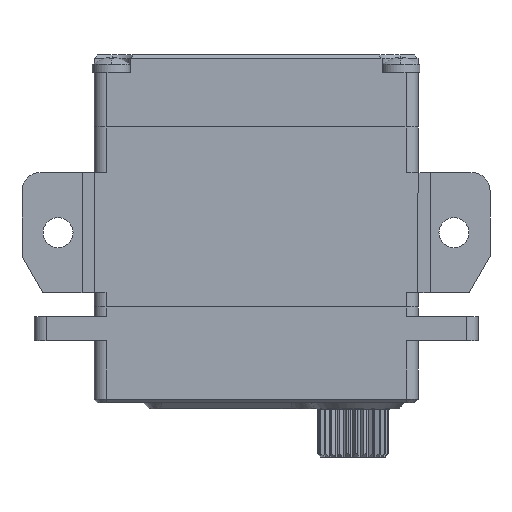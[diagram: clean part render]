
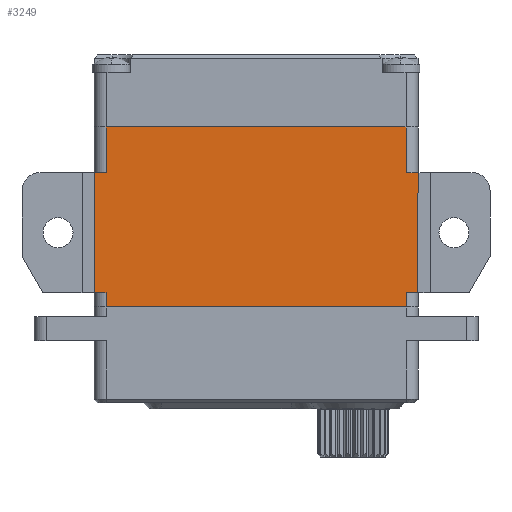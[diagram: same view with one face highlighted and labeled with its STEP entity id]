
A CAD part, front view. The second image highlights one B-rep face of the part: STEP entity #3249.
In plain terms, the highlighted planar face has unit normal (0, -1, 0).
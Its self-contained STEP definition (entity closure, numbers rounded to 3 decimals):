
#249 = CARTESIAN_POINT ( 'NONE',  ( -112.334, 9.936, -1.75 ) ) ;
#501 = DIRECTION ( 'NONE',  ( 0., 0., 1. ) ) ;
#1203 = DIRECTION ( 'NONE',  ( 1., 0., 0. ) ) ;
#1234 = EDGE_CURVE ( 'NONE', #12536, #1702, #3309, .T. ) ;
#1463 = CARTESIAN_POINT ( 'NONE',  ( -87.334, 9.936, -2.95 ) ) ;
#1546 = CARTESIAN_POINT ( 'NONE',  ( -86.334, 9.936, -1.75 ) ) ;
#1662 = CARTESIAN_POINT ( 'NONE',  ( -113.334, 9.936, 8.25 ) ) ;
#1702 = VERTEX_POINT ( 'NONE', #1662 ) ;
#1768 = LINE ( 'NONE', #19488, #3299 ) ;
#2164 = LINE ( 'NONE', #2928, #8123 ) ;
#2201 = CARTESIAN_POINT ( 'NONE',  ( -99.834, 9.936, 8.25 ) ) ;
#2228 = VERTEX_POINT ( 'NONE', #1463 ) ;
#2450 = LINE ( 'NONE', #27574, #28733 ) ;
#2705 = VERTEX_POINT ( 'NONE', #18809 ) ;
#2726 = DIRECTION ( 'NONE',  ( -1., 0., 0. ) ) ;
#2928 = CARTESIAN_POINT ( 'NONE',  ( -99.834, 9.936, -1.75 ) ) ;
#3249 = ADVANCED_FACE ( 'NONE', ( #3838 ), #24972, .F. ) ;
#3299 = VECTOR ( 'NONE', #4962, 1000. ) ;
#3309 = LINE ( 'NONE', #23899, #28861 ) ;
#3497 = VERTEX_POINT ( 'NONE', #4632 ) ;
#3838 = FACE_OUTER_BOUND ( 'NONE', #25720, .T. ) ;
#3907 = VECTOR ( 'NONE', #20756, 1000. ) ;
#4632 = CARTESIAN_POINT ( 'NONE',  ( -87.334, 9.936, -1.75 ) ) ;
#4962 = DIRECTION ( 'NONE',  ( 0., 0., -1. ) ) ;
#4997 = EDGE_CURVE ( 'NONE', #2228, #2705, #8257, .T. ) ;
#5174 = VERTEX_POINT ( 'NONE', #1546 ) ;
#5370 = ORIENTED_EDGE ( 'NONE', *, *, #20968, .F. ) ;
#5681 = EDGE_CURVE ( 'NONE', #28830, #12536, #9295, .T. ) ;
#6041 = ORIENTED_EDGE ( 'NONE', *, *, #6521, .F. ) ;
#6521 = EDGE_CURVE ( 'NONE', #22113, #26586, #17990, .T. ) ;
#6736 = EDGE_CURVE ( 'NONE', #22113, #16595, #2450, .T. ) ;
#8019 = ORIENTED_EDGE ( 'NONE', *, *, #25999, .F. ) ;
#8123 = VECTOR ( 'NONE', #2726, 1000. ) ;
#8257 = LINE ( 'NONE', #12703, #27101 ) ;
#8873 = CARTESIAN_POINT ( 'NONE',  ( -87.334, 9.936, 9.05 ) ) ;
#9115 = DIRECTION ( 'NONE',  ( 0., 0., -1. ) ) ;
#9295 = LINE ( 'NONE', #20663, #22197 ) ;
#10064 = LINE ( 'NONE', #18393, #23378 ) ;
#10408 = CARTESIAN_POINT ( 'NONE',  ( -99.834, 9.936, 8.25 ) ) ;
#10588 = ORIENTED_EDGE ( 'NONE', *, *, #1234, .F. ) ;
#10827 = DIRECTION ( 'NONE',  ( 0., 0., 1. ) ) ;
#10923 = LINE ( 'NONE', #8873, #3907 ) ;
#10945 = CARTESIAN_POINT ( 'NONE',  ( -113.334, 9.936, -1.75 ) ) ;
#11543 = VECTOR ( 'NONE', #26412, 1000. ) ;
#11829 = CARTESIAN_POINT ( 'NONE',  ( -86.334, 9.936, 8.25 ) ) ;
#11888 = LINE ( 'NONE', #26233, #11543 ) ;
#12536 = VERTEX_POINT ( 'NONE', #10945 ) ;
#12687 = ORIENTED_EDGE ( 'NONE', *, *, #12837, .T. ) ;
#12703 = CARTESIAN_POINT ( 'NONE',  ( -86.334, 9.936, -2.95 ) ) ;
#12837 = EDGE_CURVE ( 'NONE', #19500, #26586, #11888, .T. ) ;
#12843 = DIRECTION ( 'NONE',  ( -1., 0., 0. ) ) ;
#13291 = DIRECTION ( 'NONE',  ( 0., 0., -1. ) ) ;
#13586 = ORIENTED_EDGE ( 'NONE', *, *, #6736, .T. ) ;
#13766 = DIRECTION ( 'NONE',  ( -1., 0., 0. ) ) ;
#16098 = DIRECTION ( 'NONE',  ( -1., 0., 0. ) ) ;
#16595 = VERTEX_POINT ( 'NONE', #17239 ) ;
#16990 = VERTEX_POINT ( 'NONE', #11829 ) ;
#17239 = CARTESIAN_POINT ( 'NONE',  ( -112.334, 9.936, 8.25 ) ) ;
#17850 = DIRECTION ( 'NONE',  ( 0., 1., 0. ) ) ;
#17990 = LINE ( 'NONE', #28859, #19106 ) ;
#18393 = CARTESIAN_POINT ( 'NONE',  ( -112.334, 9.936, 9.05 ) ) ;
#18809 = CARTESIAN_POINT ( 'NONE',  ( -112.334, 9.936, -2.95 ) ) ;
#18841 = EDGE_CURVE ( 'NONE', #2228, #3497, #10923, .T. ) ;
#19106 = VECTOR ( 'NONE', #1203, 1000. ) ;
#19481 = LINE ( 'NONE', #10408, #27631 ) ;
#19488 = CARTESIAN_POINT ( 'NONE',  ( -86.334, 9.936, 8.25 ) ) ;
#19500 = VERTEX_POINT ( 'NONE', #24513 ) ;
#19737 = EDGE_CURVE ( 'NONE', #28830, #2705, #10064, .T. ) ;
#20663 = CARTESIAN_POINT ( 'NONE',  ( -99.834, 9.936, -1.75 ) ) ;
#20756 = DIRECTION ( 'NONE',  ( 0., 0., 1. ) ) ;
#20968 = EDGE_CURVE ( 'NONE', #5174, #3497, #2164, .T. ) ;
#22113 = VERTEX_POINT ( 'NONE', #26794 ) ;
#22197 = VECTOR ( 'NONE', #16098, 1000. ) ;
#22379 = CARTESIAN_POINT ( 'NONE',  ( -113.334, 9.936, 9.05 ) ) ;
#23378 = VECTOR ( 'NONE', #9115, 1000. ) ;
#23899 = CARTESIAN_POINT ( 'NONE',  ( -113.334, 9.936, -1.75 ) ) ;
#24513 = CARTESIAN_POINT ( 'NONE',  ( -87.334, 9.936, 8.25 ) ) ;
#24972 = PLANE ( 'NONE',  #28520 ) ;
#25720 = EDGE_LOOP ( 'NONE', ( #5370, #8019, #27356, #12687, #6041, #13586, #27149, #10588, #26777, #27097, #26229, #28534 ) ) ;
#25999 = EDGE_CURVE ( 'NONE', #16990, #5174, #1768, .T. ) ;
#26229 = ORIENTED_EDGE ( 'NONE', *, *, #4997, .F. ) ;
#26233 = CARTESIAN_POINT ( 'NONE',  ( -87.334, 9.936, 9.05 ) ) ;
#26412 = DIRECTION ( 'NONE',  ( 0., 0., 1. ) ) ;
#26586 = VERTEX_POINT ( 'NONE', #28542 ) ;
#26777 = ORIENTED_EDGE ( 'NONE', *, *, #5681, .F. ) ;
#26794 = CARTESIAN_POINT ( 'NONE',  ( -112.334, 9.936, 12.05 ) ) ;
#27097 = ORIENTED_EDGE ( 'NONE', *, *, #19737, .T. ) ;
#27101 = VECTOR ( 'NONE', #29421, 1000. ) ;
#27149 = ORIENTED_EDGE ( 'NONE', *, *, #29920, .T. ) ;
#27356 = ORIENTED_EDGE ( 'NONE', *, *, #30193, .T. ) ;
#27574 = CARTESIAN_POINT ( 'NONE',  ( -112.334, 9.936, 9.05 ) ) ;
#27631 = VECTOR ( 'NONE', #12843, 1000. ) ;
#28520 = AXIS2_PLACEMENT_3D ( 'NONE', #22379, #17850, #10827 ) ;
#28534 = ORIENTED_EDGE ( 'NONE', *, *, #18841, .T. ) ;
#28542 = CARTESIAN_POINT ( 'NONE',  ( -87.334, 9.936, 12.05 ) ) ;
#28733 = VECTOR ( 'NONE', #13291, 1000. ) ;
#28830 = VERTEX_POINT ( 'NONE', #249 ) ;
#28859 = CARTESIAN_POINT ( 'NONE',  ( -112.334, 9.936, 12.05 ) ) ;
#28861 = VECTOR ( 'NONE', #501, 1000. ) ;
#29421 = DIRECTION ( 'NONE',  ( -1., 0., 0. ) ) ;
#29920 = EDGE_CURVE ( 'NONE', #16595, #1702, #19481, .T. ) ;
#30193 = EDGE_CURVE ( 'NONE', #16990, #19500, #30232, .T. ) ;
#30232 = LINE ( 'NONE', #2201, #30579 ) ;
#30579 = VECTOR ( 'NONE', #13766, 1000. ) ;
